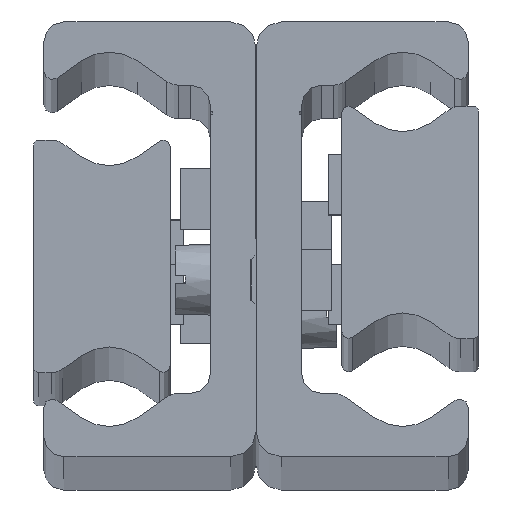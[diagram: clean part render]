
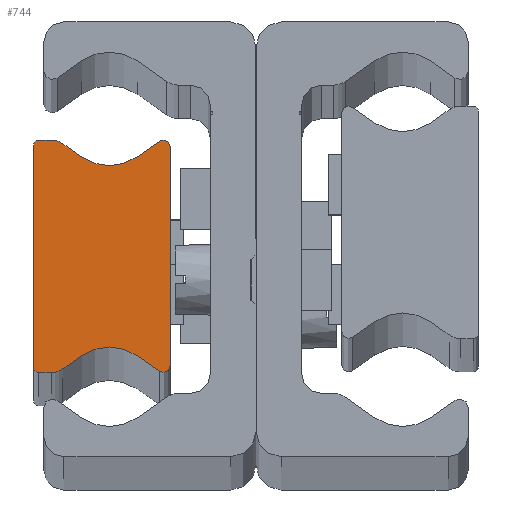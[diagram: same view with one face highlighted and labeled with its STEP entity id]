
A CAD part, top view. The second image highlights one B-rep face of the part: STEP entity #744.
In plain terms, the highlighted planar face has unit normal (0, 0, 1) as drawn and (0, 0, -1) by its records, which use the part's own axes.
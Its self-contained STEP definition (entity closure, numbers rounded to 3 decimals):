
#744 = ADVANCED_FACE( '', ( #1708 ), #1709, .F. );
#1708 = FACE_OUTER_BOUND( '', #2718, .T. );
#1709 = PLANE( '', #2719 );
#2718 = EDGE_LOOP( '', ( #4450, #4451, #4452, #4453, #4454, #4455, #4456, #4457, #4458, #4459, #4460, #4461, #4462, #4463, #4464, #4465 ) );
#2719 = AXIS2_PLACEMENT_3D( '', #4466, #4467, #4468 );
#4450 = ORIENTED_EDGE( '', *, *, #5113, .F. );
#4451 = ORIENTED_EDGE( '', *, *, #4949, .F. );
#4452 = ORIENTED_EDGE( '', *, *, #5116, .F. );
#4453 = ORIENTED_EDGE( '', *, *, #5241, .F. );
#4454 = ORIENTED_EDGE( '', *, *, #5202, .F. );
#4455 = ORIENTED_EDGE( '', *, *, #5350, .T. );
#4456 = ORIENTED_EDGE( '', *, *, #5324, .F. );
#4457 = ORIENTED_EDGE( '', *, *, #5076, .F. );
#4458 = ORIENTED_EDGE( '', *, *, #5197, .F. );
#4459 = ORIENTED_EDGE( '', *, *, #5433, .F. );
#4460 = ORIENTED_EDGE( '', *, *, #5386, .F. );
#4461 = ORIENTED_EDGE( '', *, *, #4854, .T. );
#4462 = ORIENTED_EDGE( '', *, *, #5382, .F. );
#4463 = ORIENTED_EDGE( '', *, *, #4795, .F. );
#4464 = ORIENTED_EDGE( '', *, *, #5286, .F. );
#4465 = ORIENTED_EDGE( '', *, *, #4834, .F. );
#4466 = CARTESIAN_POINT( '', ( 0.5, -11., -1890. ) );
#4467 = DIRECTION( '', ( 0., 0., 1. ) );
#4468 = DIRECTION( '', ( 1., 0., 0. ) );
#4795 = EDGE_CURVE( '', #5499, #5501, #5502, .T. );
#4834 = EDGE_CURVE( '', #5570, #5572, #5573, .T. );
#4854 = EDGE_CURVE( '', #5606, #5604, #5607, .T. );
#4949 = EDGE_CURVE( '', #5761, #5763, #5764, .T. );
#5076 = EDGE_CURVE( '', #5975, #5977, #5978, .T. );
#5113 = EDGE_CURVE( '', #5763, #5570, #6040, .T. );
#5116 = EDGE_CURVE( '', #6042, #5761, #6044, .T. );
#5197 = EDGE_CURVE( '', #6177, #5975, #6179, .T. );
#5202 = EDGE_CURVE( '', #6184, #6186, #6187, .T. );
#5241 = EDGE_CURVE( '', #6186, #6042, #6241, .T. );
#5286 = EDGE_CURVE( '', #5572, #5499, #6304, .T. );
#5324 = EDGE_CURVE( '', #5977, #6355, #6356, .T. );
#5350 = EDGE_CURVE( '', #6184, #6355, #6388, .T. );
#5382 = EDGE_CURVE( '', #5501, #5604, #6433, .T. );
#5386 = EDGE_CURVE( '', #5606, #6437, #6438, .T. );
#5433 = EDGE_CURVE( '', #6437, #6177, #6498, .T. );
#5499 = VERTEX_POINT( '', #6571 );
#5501 = VERTEX_POINT( '', #6574 );
#5502 = CIRCLE( '', #6575, 2. );
#5570 = VERTEX_POINT( '', #6656 );
#5572 = VERTEX_POINT( '', #6659 );
#5573 = CIRCLE( '', #6660, 0.5 );
#5604 = VERTEX_POINT( '', #6699 );
#5606 = VERTEX_POINT( '', #6702 );
#5607 = CIRCLE( '', #6703, 4.763 );
#5761 = VERTEX_POINT( '', #6885 );
#5763 = VERTEX_POINT( '', #6888 );
#5764 = CIRCLE( '', #6889, 0.5 );
#5975 = VERTEX_POINT( '', #7141 );
#5977 = VERTEX_POINT( '', #7144 );
#5978 = CIRCLE( '', #7145, 0.668 );
#6040 = LINE( '', #7218, #7219 );
#6042 = VERTEX_POINT( '', #7221 );
#6044 = LINE( '', #7224, #7225 );
#6177 = VERTEX_POINT( '', #7380 );
#6179 = LINE( '', #7383, #7384 );
#6184 = VERTEX_POINT( '', #7391 );
#6186 = VERTEX_POINT( '', #7394 );
#6187 = LINE( '', #7395, #7396 );
#6241 = CIRCLE( '', #7456, 2. );
#6304 = LINE( '', #7533, #7534 );
#6355 = VERTEX_POINT( '', #7593 );
#6356 = LINE( '', #7594, #7595 );
#6388 = CIRCLE( '', #7634, 4.763 );
#6433 = LINE( '', #7685, #7686 );
#6437 = VERTEX_POINT( '', #7690 );
#6438 = LINE( '', #7691, #7692 );
#6498 = CIRCLE( '', #7759, 0.668 );
#6571 = CARTESIAN_POINT( '', ( 1.748, -11.5, -1890. ) );
#6574 = CARTESIAN_POINT( '', ( 2.895, -11.138, -1890. ) );
#6575 = AXIS2_PLACEMENT_3D( '', #7839, #7840, #7841 );
#6656 = CARTESIAN_POINT( '', ( 0., -11., -1890. ) );
#6659 = CARTESIAN_POINT( '', ( 0.5, -11.5, -1890. ) );
#6660 = AXIS2_PLACEMENT_3D( '', #7907, #7908, #7909 );
#6699 = CARTESIAN_POINT( '', ( 4.768, -9.827, -1890. ) );
#6702 = CARTESIAN_POINT( '', ( 10.232, -9.827, -1890. ) );
#6703 = AXIS2_PLACEMENT_3D( '', #7934, #7935, #7936 );
#6885 = CARTESIAN_POINT( '', ( 0.5, 11.5, -1890. ) );
#6888 = CARTESIAN_POINT( '', ( 0., 11., -1890. ) );
#6889 = AXIS2_PLACEMENT_3D( '', #8074, #8075, #8076 );
#7141 = CARTESIAN_POINT( '', ( 13.5, 10.832, -1890. ) );
#7144 = CARTESIAN_POINT( '', ( 12.449, 11.379, -1890. ) );
#7145 = AXIS2_PLACEMENT_3D( '', #8284, #8285, #8286 );
#7218 = CARTESIAN_POINT( '', ( 0., 11., -1890. ) );
#7219 = VECTOR( '', #8355, 1000. );
#7221 = CARTESIAN_POINT( '', ( 1.748, 11.5, -1890. ) );
#7224 = CARTESIAN_POINT( '', ( 1.748, 11.5, -1890. ) );
#7225 = VECTOR( '', #8357, 1000. );
#7380 = CARTESIAN_POINT( '', ( 13.5, -10.832, -1890. ) );
#7383 = CARTESIAN_POINT( '', ( 13.5, -10.832, -1890. ) );
#7384 = VECTOR( '', #8504, 1000. );
#7391 = CARTESIAN_POINT( '', ( 4.768, 9.827, -1890. ) );
#7394 = CARTESIAN_POINT( '', ( 2.895, 11.138, -1890. ) );
#7395 = CARTESIAN_POINT( '', ( 4.768, 9.827, -1890. ) );
#7396 = VECTOR( '', #8508, 1000. );
#7456 = AXIS2_PLACEMENT_3D( '', #8560, #8561, #8562 );
#7533 = CARTESIAN_POINT( '', ( 0.5, -11.5, -1890. ) );
#7534 = VECTOR( '', #8613, 1000. );
#7593 = CARTESIAN_POINT( '', ( 10.232, 9.827, -1890. ) );
#7594 = CARTESIAN_POINT( '', ( 12.449, 11.379, -1890. ) );
#7595 = VECTOR( '', #8652, 1000. );
#7634 = AXIS2_PLACEMENT_3D( '', #8684, #8685, #8686 );
#7685 = CARTESIAN_POINT( '', ( 2.895, -11.138, -1890. ) );
#7686 = VECTOR( '', #8726, 1000. );
#7690 = CARTESIAN_POINT( '', ( 12.449, -11.379, -1890. ) );
#7691 = CARTESIAN_POINT( '', ( 10.232, -9.827, -1890. ) );
#7692 = VECTOR( '', #8727, 1000. );
#7759 = AXIS2_PLACEMENT_3D( '', #8774, #8775, #8776 );
#7839 = CARTESIAN_POINT( '', ( 1.748, -9.5, -1890. ) );
#7840 = DIRECTION( '', ( 0., 0., 1. ) );
#7841 = DIRECTION( '', ( 1., 0., 0. ) );
#7907 = CARTESIAN_POINT( '', ( 0.5, -11., -1890. ) );
#7908 = DIRECTION( '', ( 0., 0., 1. ) );
#7909 = DIRECTION( '', ( 1., 0., 0. ) );
#7934 = CARTESIAN_POINT( '', ( 7.5, -13.729, -1890. ) );
#7935 = DIRECTION( '', ( 0., 0., 1. ) );
#7936 = DIRECTION( '', ( 1., 0., 0. ) );
#8074 = CARTESIAN_POINT( '', ( 0.5, 11., -1890. ) );
#8075 = DIRECTION( '', ( 0., 0., 1. ) );
#8076 = DIRECTION( '', ( 1., 0., 0. ) );
#8284 = CARTESIAN_POINT( '', ( 12.832, 10.832, -1890. ) );
#8285 = DIRECTION( '', ( 0., 0., 1. ) );
#8286 = DIRECTION( '', ( 1., 0., 0. ) );
#8355 = DIRECTION( '', ( 0., -1., 0. ) );
#8357 = DIRECTION( '', ( -1., 0., 0. ) );
#8504 = DIRECTION( '', ( 0., 1., 0. ) );
#8508 = DIRECTION( '', ( -0.819, 0.574, 0. ) );
#8560 = CARTESIAN_POINT( '', ( 1.748, 9.5, -1890. ) );
#8561 = DIRECTION( '', ( 0., 0., 1. ) );
#8562 = DIRECTION( '', ( 1., 0., 0. ) );
#8613 = DIRECTION( '', ( 1., 0., 0. ) );
#8652 = DIRECTION( '', ( -0.819, -0.574, 0. ) );
#8684 = CARTESIAN_POINT( '', ( 7.5, 13.729, -1890. ) );
#8685 = DIRECTION( '', ( 0., 0., 1. ) );
#8686 = DIRECTION( '', ( 1., 0., 0. ) );
#8726 = DIRECTION( '', ( 0.819, 0.574, 0. ) );
#8727 = DIRECTION( '', ( 0.819, -0.574, 0. ) );
#8774 = CARTESIAN_POINT( '', ( 12.832, -10.832, -1890. ) );
#8775 = DIRECTION( '', ( 0., 0., 1. ) );
#8776 = DIRECTION( '', ( 1., 0., 0. ) );
